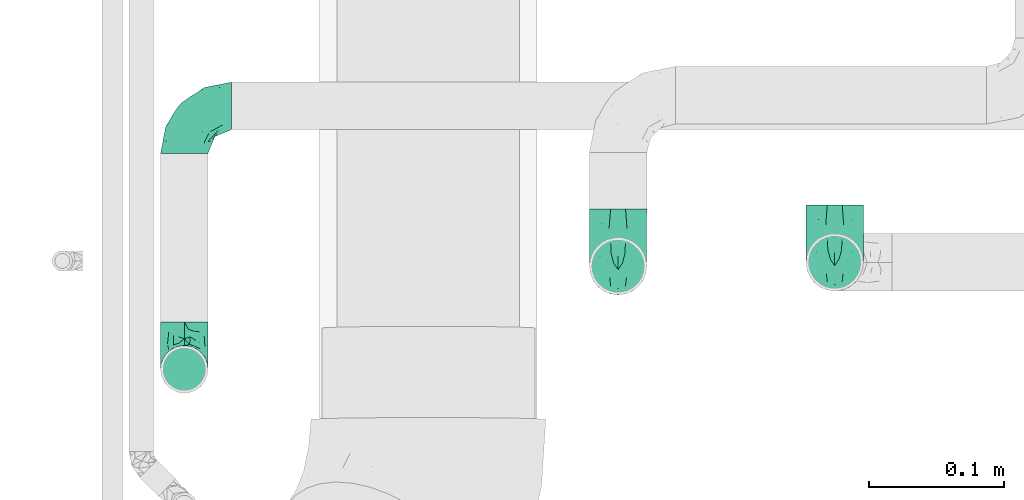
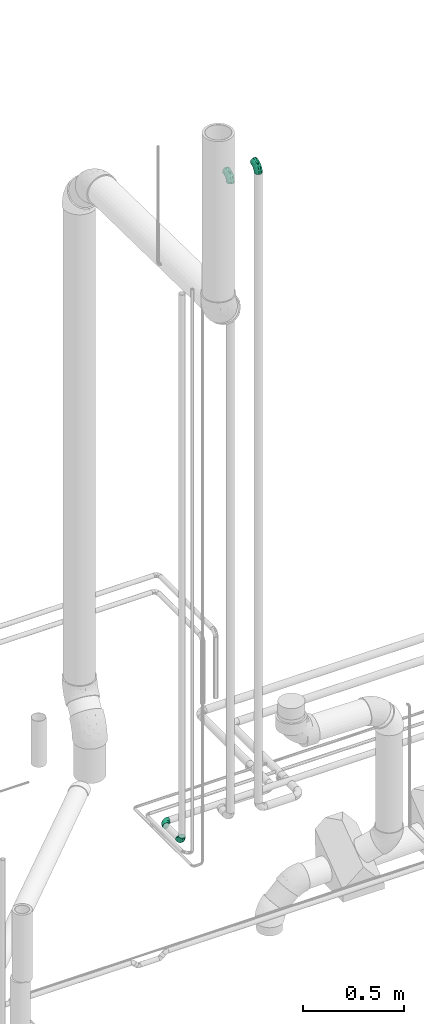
# One storey, part 89 of 156: 4 flow fittings.
"""IFC2X3 building model written with IfcOpenShell, lengths in millimetres."""

from ifc_helpers import new_model, entity, si_unit, converted_unit, derived_unit, direction, frame, origin_with_axes, place, context, subcontext, project, spatial, open_shell, surface_model, source, transform, mapped, type_object, element, save


model = new_model("IFC2X3")

# Units and contexts
model_context = context("Model", 3, precision=0.01, world=frame((0.0, 4.29681676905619e-09, 0.0)), true_north=direction((4.01073788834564e-13, 1.0)))
plan_context = context("Plan", 3, precision=0.01, world=frame((0.0, 4.29681676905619e-09, 0.0)), true_north=direction((4.01073788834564e-13, 1.0)))
body_context = subcontext(model_context, "Body", "Model", "MODEL_VIEW")
ifc_project = project(units=[converted_unit("PLANEANGLEUNIT", "DEGREE", entity("IfcPositiveLengthMeasure", 0.0174532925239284), si_unit("PLANEANGLEUNIT", "RADIAN"), dimensions=[0, 0, 0, 0, 0, 0, 0]), si_unit("AREAUNIT", "SQUARE_METRE"), si_unit("LENGTHUNIT", "METRE", prefix="MILLI"), si_unit("MASSUNIT", "GRAM", prefix="KILO"), si_unit("POWERUNIT", "WATT"), si_unit("PRESSUREUNIT", "PASCAL", prefix="KILO"), si_unit("FORCEUNIT", "NEWTON", prefix="KILO"), si_unit("ELECTRICVOLTAGEUNIT", "VOLT"), si_unit("ELECTRICCURRENTUNIT", "AMPERE"), si_unit("THERMODYNAMICTEMPERATUREUNIT", "DEGREE_CELSIUS"), si_unit("TIMEUNIT", "SECOND"), si_unit("VOLUMEUNIT", "CUBIC_METRE"), derived_unit("LINEARVELOCITYUNIT", [(si_unit("LENGTHUNIT", "METRE"), 1), (si_unit("TIMEUNIT", "SECOND"), -1)]), derived_unit("VOLUMETRICFLOWRATEUNIT", [(si_unit("VOLUMEUNIT", "CUBIC_METRE"), 1), (si_unit("TIMEUNIT", "SECOND"), -1)]), derived_unit("THERMALTRANSMITTANCEUNIT", [(si_unit("POWERUNIT", "WATT"), 1), (si_unit("THERMODYNAMICTEMPERATUREUNIT", "KELVIN"), -1), (si_unit("AREAUNIT", "SQUARE_METRE"), -1)]), derived_unit("SOUNDPRESSUREUNIT", [(si_unit("PRESSUREUNIT", "PASCAL"), 1)])], contexts=[model_context, plan_context])

# Site, building, storey
site_placement = place(None, frame((0.0, -4.29681676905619e-09, 0.0), z_axis=(0.0, 0.0, 1.0), x_axis=(1.0, 0.0, 0.0)))
site = spatial("IfcSite", under=ifc_project, at=site_placement, CompositionType="ELEMENT")
building_placement = place(site_placement, frame((0.0, 4.29681676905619e-09, 0.0), z_axis=(0.0, 0.0, 1.0), x_axis=(1.0, 0.0, 0.0)))
building = spatial("IfcBuilding", under=site, at=building_placement, Name="mc-building", CompositionType="ELEMENT")
storey_placement = place(building_placement, frame((0.0, 0.0, 205200.0), z_axis=(0.0, 0.0, 1.0), x_axis=(1.0, 0.0, 0.0)))
storey = spatial("IfcBuildingStorey", under=building, at=storey_placement, Name="Nivå D + 1,2 m", CompositionType="ELEMENT", Elevation=205200.0)

# Flow fittings
pipe_fitting_type_1 = type_object("IfcPipeFittingType", Name="magi_pipe_fe_elbow_short_001", PredefinedType="BEND")
shared_shape_1 = source(origin_with_axes(), body_context, "Body", "SurfaceModel", [
    surface_model("IfcShellBasedSurfaceModel", [(-42.4, 10.6, -18.35974), (-42.4, 5.48696, -20.47763), (-42.4, 0.0, -21.2), (-42.4, 14.99066, -14.99066), (-42.4, 20.47763, -5.48696), (-42.4, 18.35974, -10.6), (-42.4, -14.99066, 14.99066), (-42.4, -21.2, 0.0), (-42.4, -10.6, -18.35974), (-42.4, -14.99066, -14.99066), (-42.4, -5.48696, -20.47763), (-42.4, -18.35974, -10.6), (-42.4, -20.47763, -5.48696), (-42.4, 10.6, 18.35974), (-42.4, 20.47763, 5.48696), (-42.4, 18.35974, 10.6), (-42.4, 14.99066, 14.99066), (-42.4, 5.48696, 20.47763), (-42.4, 0.0, 21.2), (-42.4, -20.47763, 5.48696), (-42.4, -18.35974, 10.6), (-42.4, -10.6, 18.35974), (-42.4, -5.48696, 20.47763), (-42.4, 21.2, 0.0), (0.0, 42.4, -21.2), (-5.48696, 42.4, -20.47763), (-10.6, 42.4, -18.35974), (-14.99066, 42.4, -14.99066), (-18.35974, 42.4, -10.6), (-20.47763, 42.4, -5.48696), (21.2, 42.4, 0.0), (5.48696, 42.4, -20.47763), (14.99066, 42.4, -14.99066), (10.6, 42.4, -18.35974), (18.35974, 42.4, -10.6), (20.47763, 42.4, -5.48696), (14.99066, 42.4, 14.99066), (-20.47763, 42.4, 5.48696), (-10.6, 42.4, 18.35974), (-14.99066, 42.4, 14.99066), (-18.35974, 42.4, 10.6), (-5.48696, 42.4, 20.47763), (0.0, 42.4, 21.2), (18.35974, 42.4, 10.6), (20.47763, 42.4, 5.48696), (5.48696, 42.4, 20.47763), (10.6, 42.4, 18.35974), (-21.2, 42.4, 0.0), (-31.10239, -16.47009, 11.90111), (-27.83957, -12.231, 15.79732), (-30.23067, -18.77937, 0.0), (-18.74048, -13.50096, 10.69998), (-28.17586, -18.50359, 6.61185), (18.50359, 28.17586, 6.61185), (14.95929, 16.60735, 5.43468), (16.35874, 18.06133, 0.0), (-20.72313, 33.83635, 9.21426), (-17.70981, 33.00599, 13.92769), (-31.16033, -8.01664, 19.07348), (-32.38682, -2.80842, 20.83743), (-29.68688, 3.24967, 21.16387), (-7.74467, -9.46536, 0.0), (-16.60735, -14.95929, 5.43468), (-18.06133, -16.35874, 0.0), (-16.37932, -5.14532, 17.61254), (-21.10659, -0.19025, 20.54817), (-1.82445, -3.58377, 9.55223), (-0.35533, 0.43745, 12.66367), (-7.20655, -5.07682, 13.06146), (-33.14056, 17.6728, 13.91288), (-7.36799, 20.84806, 21.16196), (-15.70315, 15.70315, 20.68489), (-12.62356, 9.26422, 21.0908), (-36.67879, 12.83836, 17.27427), (-7.91358, 36.5686, 19.85759), (-2.90555, 31.71221, 21.14793), (-33.84689, 20.71971, 9.21285), (-33.51649, 22.58113, 4.66115), (-26.3226, 26.3226, 7.92474), (-32.67995, 8.31454, 20.02643), (-5.53379, 14.19921, 20.81623), (-10.53385, 3.88918, 19.79653), (-2.16577, 11.45378, 19.48254), (-3.78693, 3.78693, 17.3328), (12.231, 27.83957, 15.79732), (13.50096, 18.74047, 10.69998), (16.47009, 31.10239, 11.90111), (-22.53806, 14.38475, 19.60876), (-23.29615, 9.08095, 20.82061), (2.80842, 32.38682, 20.83743), (8.01664, 31.16033, 19.07348), (5.14532, 16.37932, 17.61254), (18.77937, 30.23067, 0.0), (-20.80278, 5.19491, 21.19095), (-19.62579, 22.38752, 17.42006), (-29.19336, 14.39093, 17.85259), (-22.31569, 34.20044, 4.54807), (-26.56962, 27.80621, 3.73106), (9.67657, 17.17133, 14.49993), (-24.04026, 31.8, 0.0), (-9.16861, 28.72652, 20.19004), (-12.09761, 21.9456, 20.37969), (-15.36991, 27.40112, 17.818), (-16.88976, 20.52477, 19.2896), (-12.95169, 35.54896, 17.36222), (-17.17133, -9.67657, 14.49993), (-21.98655, 28.10245, 11.99898), (-22.34699, 23.67592, 15.01692), (-27.22822, 22.77969, 11.82161), (0.19025, 21.10658, 20.54817), (4.8276, 7.36347, 13.42842), (-10.06209, -9.46364, 9.95114), (1.25876, -2.7536, 5.73797), (6.43781, 3.77591, 7.40371), (6.57528, 2.20066, 3.17705), (10.91934, 8.84313, 5.00748), (10.64415, 10.99764, 8.89767), (-31.8, 24.04026, 0.0), (-5.71381, -8.43063, 6.15529), (2.57199, -2.57199, 0.0), (9.46536, 7.74467, 0.0), (-17.17133, -9.67657, -14.49993), (-27.83957, -12.231, -15.79732), (-16.37932, -5.14532, -17.61254), (-18.74048, -13.50096, -10.69998), (-33.00599, 17.70981, -13.92769), (-35.54896, 12.95169, -17.36222), (-34.20044, 22.31569, -4.54807), (-28.17586, -18.50359, -6.61185), (-26.3226, 26.3226, -7.92474), (-33.83635, 20.72313, -9.21426), (-16.60735, -14.95929, -5.43468), (-20.52477, 16.88976, -19.2896), (-21.9456, 12.0976, -20.37969), (-27.40112, 15.36991, -17.818), (-12.83836, 36.67879, -17.27427), (-17.6728, 33.14056, -13.91288), (8.01664, 31.16033, -19.07348), (5.14532, 16.37932, -17.61254), (0.19025, 21.10658, -20.54817), (-36.5686, 7.91358, -19.85759), (-31.10239, -16.47009, -11.90111), (-31.16033, -8.01664, -19.07348), (-14.38475, 22.53806, -19.60876), (-8.31454, 32.67995, -20.02643), (-9.08095, 23.29615, -20.82061), (-32.38682, -2.80842, -20.83743), (-20.84806, 7.36799, -21.16196), (-15.70315, 15.70314, -20.68489), (-9.26422, 12.62356, -21.0908), (-31.71221, 2.90555, -21.14793), (-22.58113, 33.51649, -4.66115), (-20.71971, 33.84689, -9.21285), (-28.72652, 9.16861, -20.19004), (-27.80621, 26.56962, -3.73106), (-5.19491, 20.80278, -21.19095), (-22.38752, 19.62579, -17.42006), (-14.39093, 29.19336, -17.85259), (2.80842, 32.38682, -20.83743), (-3.24967, 29.68688, -21.16387), (16.47009, 31.10239, -11.90111), (12.231, 27.83957, -15.79732), (6.57528, 2.20067, -3.17705), (10.91934, 8.84313, -5.00749), (-14.19921, 5.53379, -20.81623), (-3.88918, 10.53385, -19.79653), (-11.45378, 2.16577, -19.48254), (1.25876, -2.7536, -5.73797), (-5.71381, -8.43063, -6.15529), (-1.82445, -3.58377, -9.55223), (13.50096, 18.74048, -10.69998), (18.50359, 28.17586, -6.61185), (14.95929, 16.60735, -5.43468), (-28.10245, 21.98655, -11.99898), (9.67657, 17.17133, -14.49993), (10.64415, 10.99764, -8.89767), (4.8276, 7.36347, -13.42842), (-23.67592, 22.34699, -15.01692), (-22.77969, 27.22822, -11.82161), (-21.10658, -0.19025, -20.54817), (-3.78693, 3.78693, -17.3328), (-7.20655, -5.07682, -13.06146), (-10.06209, -9.46364, -9.95113), (-0.35533, 0.43745, -12.66367), (6.43781, 3.77591, -7.40371)], [open_shell([[[0, 1, 2]], [[3, 0, 2]], [[4, 5, 3]], [[2, 4, 3]], [[6, 2, 7]], [[8, 9, 10]], [[11, 10, 9]], [[12, 7, 11]], [[2, 10, 11]], [[11, 7, 2]], [[6, 4, 2]], [[13, 14, 4]], [[15, 14, 16]], [[4, 6, 13]], [[16, 14, 13]], [[17, 13, 18]], [[19, 20, 7]], [[7, 20, 6]], [[21, 22, 6]], [[18, 6, 22]], [[6, 18, 13]], [[23, 4, 14]], [[24, 25, 26]], [[24, 26, 27]], [[27, 28, 29]], [[27, 29, 24]], [[24, 29, 30]], [[31, 32, 33]], [[31, 24, 32]], [[34, 30, 35]], [[32, 24, 34]], [[24, 30, 34]], [[29, 36, 30]], [[29, 37, 38]], [[39, 37, 40]], [[36, 29, 38]], [[38, 37, 39]], [[41, 42, 38]], [[30, 43, 44]], [[36, 43, 30]], [[36, 45, 46]], [[45, 36, 42]], [[38, 42, 36]], [[37, 29, 47]], [[6, 48, 49]], [[19, 7, 50]], [[51, 48, 52]], [[53, 54, 55]], [[48, 6, 20]], [[19, 52, 20]], [[40, 56, 57]], [[49, 21, 6]], [[49, 58, 21]], [[18, 59, 60]], [[61, 62, 63]], [[58, 64, 65]], [[66, 67, 68]], [[15, 16, 69]], [[70, 71, 72]], [[13, 73, 16]], [[22, 59, 18]], [[41, 74, 75]], [[18, 60, 17]], [[15, 69, 76]], [[16, 73, 69]], [[23, 14, 77]], [[14, 15, 76]], [[77, 76, 78]], [[17, 79, 13]], [[80, 81, 82]], [[68, 83, 64]], [[84, 36, 46]], [[85, 86, 84]], [[87, 79, 88]], [[21, 58, 22]], [[42, 89, 45]], [[53, 44, 43]], [[42, 41, 75]], [[84, 90, 91]], [[43, 86, 53]], [[92, 44, 53]], [[86, 43, 36]], [[90, 46, 45]], [[53, 55, 92]], [[88, 93, 72]], [[54, 53, 85]], [[87, 94, 95]], [[78, 96, 97]], [[98, 84, 91]], [[99, 96, 47]], [[79, 17, 60]], [[96, 78, 56]], [[62, 52, 63]], [[57, 39, 40]], [[100, 70, 75]], [[101, 102, 103]], [[19, 50, 52]], [[104, 38, 39]], [[74, 41, 38]], [[57, 102, 104]], [[105, 64, 49]], [[90, 84, 46]], [[40, 37, 56]], [[56, 106, 57]], [[102, 57, 107]], [[95, 107, 69]], [[76, 108, 78]], [[100, 101, 70]], [[89, 75, 109]], [[64, 58, 49]], [[63, 52, 50]], [[59, 58, 65]], [[105, 49, 51]], [[64, 83, 81]], [[89, 90, 45]], [[30, 44, 92]], [[109, 82, 91]], [[109, 91, 90]], [[91, 83, 110]], [[111, 68, 105]], [[66, 68, 111]], [[62, 51, 52]], [[66, 112, 113]], [[114, 115, 113]], [[98, 85, 84]], [[52, 48, 20]], [[49, 48, 51]], [[84, 86, 36]], [[53, 86, 85]], [[88, 79, 60]], [[73, 79, 95]], [[96, 56, 37]], [[78, 108, 106]], [[87, 103, 94]], [[100, 74, 104]], [[108, 69, 107]], [[78, 97, 77]], [[88, 72, 71]], [[109, 75, 70]], [[81, 72, 65]], [[70, 72, 80]], [[75, 89, 42]], [[90, 89, 109]], [[58, 59, 22]], [[60, 59, 65]], [[67, 83, 68]], [[110, 113, 116]], [[88, 60, 93]], [[87, 88, 71]], [[103, 87, 71]], [[79, 87, 95]], [[101, 103, 71]], [[94, 103, 102]], [[47, 96, 37]], [[96, 99, 97]], [[99, 117, 97]], [[97, 117, 77]], [[23, 77, 117]], [[14, 76, 77]], [[60, 65, 93]], [[65, 72, 93]], [[70, 101, 71]], [[102, 101, 100]], [[69, 108, 76]], [[106, 108, 107]], [[57, 106, 107]], [[78, 106, 56]], [[57, 104, 39]], [[100, 104, 102]], [[102, 107, 94]], [[95, 94, 107]], [[64, 81, 65]], [[82, 81, 83]], [[91, 82, 83]], [[80, 82, 109]], [[70, 80, 109]], [[81, 80, 72]], [[79, 73, 13]], [[69, 73, 95]], [[104, 74, 38]], [[75, 74, 100]], [[62, 61, 118]], [[111, 62, 118]], [[113, 115, 116]], [[119, 118, 61]], [[111, 105, 51]], [[113, 112, 114]], [[120, 55, 54]], [[68, 64, 105]], [[91, 110, 98]], [[116, 98, 110]], [[62, 111, 51]], [[66, 111, 118]], [[112, 66, 118]], [[67, 113, 110]], [[118, 119, 112]], [[114, 112, 119]], [[119, 120, 114]], [[115, 120, 54]], [[120, 115, 114]], [[116, 54, 85]], [[54, 116, 115]], [[116, 85, 98]], [[113, 67, 66]], [[83, 67, 110]], [[121, 122, 123]], [[122, 121, 124]], [[5, 125, 3]], [[3, 126, 0]], [[117, 127, 23]], [[50, 12, 128]], [[127, 129, 130]], [[128, 131, 63]], [[132, 133, 134]], [[27, 135, 136]], [[137, 138, 139]], [[0, 140, 1]], [[128, 11, 141]], [[142, 8, 10]], [[128, 63, 50]], [[5, 4, 130]], [[11, 9, 141]], [[143, 144, 145]], [[146, 10, 2]], [[147, 148, 149]], [[11, 128, 12]], [[124, 141, 122]], [[150, 2, 1]], [[151, 152, 129]], [[125, 134, 126]], [[153, 147, 150]], [[127, 154, 129]], [[145, 155, 149]], [[47, 29, 151]], [[143, 156, 157]], [[152, 29, 28]], [[24, 158, 159]], [[122, 9, 8]], [[27, 26, 135]], [[144, 26, 25]], [[32, 160, 161]], [[24, 31, 158]], [[120, 162, 163]], [[130, 125, 5]], [[27, 136, 28]], [[1, 140, 150]], [[33, 161, 137]], [[142, 122, 8]], [[24, 159, 25]], [[164, 165, 166]], [[167, 168, 169]], [[34, 160, 32]], [[161, 33, 32]], [[170, 160, 171]], [[131, 128, 124]], [[30, 92, 35]], [[35, 92, 171]], [[172, 171, 55]], [[35, 171, 34]], [[144, 25, 159]], [[130, 173, 125]], [[174, 175, 176]], [[136, 152, 28]], [[33, 137, 31]], [[122, 142, 123]], [[134, 125, 177]], [[157, 177, 136]], [[152, 178, 129]], [[153, 133, 147]], [[146, 150, 179]], [[146, 142, 10]], [[7, 12, 50]], [[179, 166, 123]], [[179, 123, 142]], [[123, 180, 181]], [[138, 137, 161]], [[55, 171, 92]], [[158, 137, 139]], [[174, 161, 170]], [[138, 180, 165]], [[180, 138, 176]], [[124, 121, 182]], [[176, 183, 180]], [[61, 131, 168]], [[169, 168, 182]], [[172, 170, 171]], [[122, 141, 9]], [[128, 141, 124]], [[171, 160, 34]], [[161, 160, 170]], [[145, 144, 159]], [[135, 144, 157]], [[127, 130, 4]], [[129, 178, 173]], [[143, 132, 156]], [[153, 140, 126]], [[178, 136, 177]], [[129, 154, 151]], [[145, 149, 148]], [[179, 150, 147]], [[165, 149, 139]], [[147, 149, 164]], [[150, 146, 2]], [[142, 146, 179]], [[137, 158, 31]], [[159, 158, 139]], [[174, 138, 161]], [[184, 169, 183]], [[145, 159, 155]], [[143, 145, 148]], [[132, 143, 148]], [[144, 143, 157]], [[133, 132, 148]], [[156, 132, 134]], [[23, 127, 4]], [[127, 117, 154]], [[117, 99, 154]], [[154, 99, 151]], [[47, 151, 99]], [[29, 152, 151]], [[159, 139, 155]], [[139, 149, 155]], [[147, 133, 148]], [[134, 133, 153]], [[136, 178, 152]], [[173, 178, 177]], [[125, 173, 177]], [[129, 173, 130]], [[125, 126, 3]], [[153, 126, 134]], [[134, 177, 156]], [[157, 156, 177]], [[138, 165, 139]], [[166, 165, 180]], [[123, 166, 180]], [[164, 166, 179]], [[147, 164, 179]], [[165, 164, 149]], [[144, 135, 26]], [[136, 135, 157]], [[126, 140, 0]], [[150, 140, 153]], [[182, 131, 124]], [[168, 119, 61]], [[119, 167, 162]], [[63, 131, 61]], [[172, 163, 175]], [[172, 55, 120]], [[123, 181, 121]], [[182, 121, 181]], [[175, 174, 170]], [[176, 138, 174]], [[169, 182, 181]], [[131, 182, 168]], [[183, 169, 181]], [[167, 169, 184]], [[162, 167, 184]], [[119, 168, 167]], [[163, 162, 184]], [[120, 119, 162]], [[175, 163, 184]], [[120, 163, 172]], [[176, 175, 184]], [[172, 175, 170]], [[180, 183, 181]], [[184, 183, 176]]])]),
])
for number, where, z_axis, x_axis, name in (
    (1, (324448.8625, 463166.1423, 8186.0), (-1.0, 0.0, 0.0), (0.0, 0.0, 1.0), "magi_pipe_fe_elbow_short_001"),
    (2, (324608.8625, 463169.03228, 8186.0), (-1.0, 0.0, 0.0), (0.0, 0.0, 1.0), "magi_pipe_fe_elbow_short_001"),
):
    element("IfcFlowFitting", number, at=place(storey_placement, frame(where, z_axis=z_axis, x_axis=x_axis)), inside=storey, type_object=pipe_fitting_type_1, Name=name, context=body_context, shape_type="MappedRepresentation", body=[
        mapped(shared_shape_1, transform((0.0, 0.0, 0.0), scale=1.0)),
    ])
pipe_fitting_type_2 = type_object("IfcPipeFittingType", Name="magi_pipe_elbow_short_001", PredefinedType="BEND")
shared_shape_2 = source(origin_with_axes(), body_context, "Body", "SurfaceModel", [
    surface_model("IfcShellBasedSurfaceModel", [(-35.0, 8.75, -15.15544), (-35.0, 4.52933, -16.9037), (-35.0, 0.0, -17.5), (-35.0, 12.37437, -12.37437), (-35.0, 15.15544, -8.75), (-35.0, -8.75, -15.15544), (-35.0, -8.75, 15.15544), (-35.0, -12.37437, -12.37437), (-35.0, -4.52933, -16.9037), (-35.0, -16.9037, -4.52933), (-35.0, -17.5, 0.0), (-35.0, -15.15544, -8.75), (-35.0, -16.9037, 4.52933), (-35.0, 17.5, 0.0), (-35.0, 16.9037, -4.52933), (-35.0, 12.37437, 12.37437), (-35.0, 16.9037, 4.52933), (-35.0, 15.15544, 8.75), (-35.0, 4.52933, 16.9037), (-35.0, 8.75, 15.15544), (-35.0, 0.0, 17.5), (-35.0, -15.15544, 8.75), (-35.0, -12.37437, 12.37437), (-35.0, -4.52933, 16.9037), (0.0, 35.0, -17.5), (-4.52933, 35.0, -16.9037), (-8.75, 35.0, -15.15544), (-16.9037, 35.0, -4.52933), (-15.15544, 35.0, -8.75), (-12.37437, 35.0, -12.37437), (12.37437, 35.0, -12.37437), (16.9037, 35.0, 4.52933), (8.75, 35.0, -15.15544), (4.52933, 35.0, -16.9037), (15.15544, 35.0, -8.75), (17.5, 35.0, 0.0), (16.9037, 35.0, -4.52933), (-16.9037, 35.0, 4.52933), (-12.37437, 35.0, 12.37437), (-15.15544, 35.0, 8.75), (-8.75, 35.0, 15.15544), (-4.52933, 35.0, 16.9037), (12.37437, 35.0, 12.37437), (15.15544, 35.0, 8.75), (8.75, 35.0, 15.15544), (0.0, 35.0, 17.5), (4.52933, 35.0, 16.9037), (-17.5, 35.0, 0.0), (-25.67415, -13.59559, 9.82403), (-22.98078, -10.09634, 13.04024), (-24.95456, -15.50184, 0.0), (-15.46973, -11.14466, 8.83253), (-23.25837, -15.27419, 5.4579), (15.27419, 23.25837, 5.4579), (12.34847, 13.7089, 4.48617), (13.50368, 14.90912, 0.0), (7.98773, 14.17445, 11.96929), (10.09634, 22.98078, 13.04024), (4.24731, 13.52067, 14.53865), (-25.72197, -6.61751, 15.74462), (-26.7344, -2.31827, 17.20071), (-24.50568, 2.68251, 17.47017), (-27.44516, 14.56448, 11.47495), (-25.07215, 18.29076, 8.00088), (-30.6355, 16.43299, 7.25145), (-6.39301, -7.81339, 0.0), (-13.7089, -12.34847, 4.48617), (-14.90912, -13.50368, 0.0), (-18.44681, 19.54381, 12.39604), (-6.53243, 30.18634, 16.39188), (-2.39845, 26.17753, 17.45702), (-30.27731, 10.5977, 14.25942), (-1.50603, -2.9583, 7.8851), (-0.29331, 0.3611, 10.4535), (-5.9488, -4.19077, 10.78186), (-4.56799, 11.72104, 17.18321), (-8.69539, 3.21041, 16.34147), (-1.78778, 9.45477, 16.08229), (-18.0168, 25.63227, 7.92136), (-27.12223, 20.76308, 0.0), (-29.14442, 17.91065, 4.40976), (-26.97638, 6.86342, 16.53125), (-6.08206, 17.20948, 17.4686), (-12.9625, 12.9625, 17.07479), (-10.42039, 7.64736, 17.40986), (-3.126, 3.126, 14.30773), (-13.52067, -4.24732, 14.53865), (-17.42289, -0.15705, 16.96193), (11.14466, 15.46973, 8.83253), (13.59559, 25.67415, 9.82403), (6.61751, 25.72197, 15.74462), (2.31827, 26.7344, 17.20071), (-14.17445, -7.98773, 11.96929), (15.50184, 24.95456, 0.0), (-7.56843, 23.71293, 16.6663), (-11.05874, 27.1034, 14.50532), (-13.23678, 18.91785, 15.59535), (-14.3786, 23.24943, 13.39158), (-18.69025, 15.70341, 14.54296), (-23.93728, 20.79474, 4.17293), (-22.62563, 22.62563, 0.0), (-19.21704, 26.38748, 4.0702), (-14.44673, 27.90403, 11.42459), (-19.23031, 7.49607, 17.18683), (-17.1721, 4.28825, 17.49253), (-18.60453, 11.87421, 16.18647), (-10.19404, 18.16587, 16.76415), (0.15705, 17.42289, 16.96193), (-24.0983, 11.8793, 14.7368), (3.98505, 6.07834, 11.08478), (-8.30597, -7.81197, 8.21438), (1.03907, -2.27302, 4.73653), (5.31423, 3.11691, 6.11155), (5.42771, 1.81659, 2.62257), (9.0136, 7.29975, 4.13354), (-20.76308, 27.12223, 0.0), (8.78644, 9.07824, 7.34478), (-4.71659, -6.95924, 5.08102), (2.12311, -2.12311, 0.0), (7.81339, 6.39301, 0.0), (-27.70384, 2.21276, -17.44304), (-15.139, 25.6163, -11.67774), (-29.4629, -13.93098, -10.16755), (-26.92794, 6.87113, -16.53331), (-23.88622, 20.75741, -4.41333), (-14.29664, -4.41648, -14.68212), (-15.19601, -0.21829, -16.64455), (-7.03127, -0.29284, -14.33943), (-25.40695, 11.47437, -14.63597), (-27.66913, 14.50571, -11.45035), (10.45516, 25.31793, -13.21276), (6.03943, 22.16202, -15.56409), (6.89903, 29.55572, -15.927), (-21.10543, 16.03689, -13.19848), (12.97763, 21.9883, -9.47862), (12.99032, 16.23155, -5.74578), (10.09843, 13.35052, -8.97101), (-16.20755, 20.33949, -13.47528), (-12.46256, 21.39865, -15.19771), (-16.17359, 16.17359, -15.36562), (-26.47317, -15.80391, 0.0), (-25.52983, -15.66647, -5.70515), (13.93098, 29.4629, -10.16755), (15.66647, 25.52983, -5.70515), (-7.61553, -8.60518, -5.85642), (-16.23155, -12.99032, -5.74578), (-25.31793, -10.45516, -13.21276), (0.17109, 0.42769, -10.06227), (-5.90918, -5.51991, -9.20861), (-5.32113, -2.45619, -11.9452), (-21.9883, -12.97763, -9.47862), (0.73672, 8.22048, -14.5942), (0.21829, 15.19601, -16.64455), (3.61692, 14.93995, -15.28797), (-25.7831, -2.20653, -17.18003), (-29.55572, -6.89903, -15.927), (-19.09867, -7.99059, -13.74068), (2.20653, 25.7831, -17.18003), (-29.66035, 18.06344, -2.9959), (1.76053, -1.33292, -5.27593), (-17.15897, 27.77164, -7.62747), (-18.31862, 28.40001, -3.89769), (-13.35052, -10.09843, -8.97101), (-6.17792, 6.17792, -16.5247), (-21.26622, 20.80683, -8.58416), (-2.21276, 27.70384, -17.44304), (-7.14365, 25.46075, -16.59474), (-10.98399, 27.47352, -14.47678), (-22.16202, -6.03943, -15.56409), (3.03601, 6.10561, -11.96956), (7.13869, 13.06641, -12.24206), (5.77868, 6.1646, -9.10678), (-4.13696, 19.27897, -17.49622), (8.60518, 7.61553, -5.85642), (-9.46274, 10.21159, -17.49007), (-10.35485, 16.58999, -16.97913), (-17.27815, 10.12754, -16.92218), (-27.97841, 17.20134, -7.38292), (15.80391, 26.47317, 0.0), (-19.27898, 4.13695, -17.49622), (-20.06282, 28.81281, 0.0), (-13.06641, -7.13869, -12.24206), (-19.51618, 19.81971, -11.35476)], [open_shell([[[0, 1, 2]], [[3, 0, 2]], [[4, 3, 5]], [[2, 5, 3]], [[6, 4, 5]], [[7, 6, 5]], [[2, 8, 5]], [[9, 10, 11]], [[11, 10, 12]], [[11, 12, 7]], [[13, 14, 4]], [[4, 15, 16]], [[17, 16, 15]], [[18, 19, 15]], [[4, 6, 15]], [[15, 20, 18]], [[21, 22, 12]], [[6, 12, 22]], [[23, 20, 6]], [[6, 7, 12]], [[6, 20, 15]], [[13, 4, 16]], [[24, 25, 26]], [[24, 26, 27]], [[28, 27, 26]], [[28, 26, 29]], [[30, 24, 31]], [[24, 32, 33]], [[24, 30, 32]], [[34, 35, 36]], [[31, 35, 34]], [[34, 30, 31]], [[31, 24, 27]], [[31, 27, 37]], [[38, 37, 39]], [[38, 40, 41]], [[37, 38, 31]], [[41, 31, 38]], [[31, 42, 43]], [[42, 31, 44]], [[44, 45, 46]], [[45, 44, 31]], [[31, 41, 45]], [[37, 27, 47]], [[22, 48, 49]], [[12, 10, 50]], [[51, 48, 52]], [[53, 54, 55]], [[48, 22, 21]], [[12, 52, 21]], [[56, 57, 58]], [[49, 6, 22]], [[49, 59, 6]], [[20, 60, 61]], [[62, 63, 64]], [[65, 66, 67]], [[57, 42, 44]], [[62, 68, 63]], [[41, 69, 70]], [[19, 71, 15]], [[23, 60, 20]], [[72, 73, 74]], [[75, 76, 77]], [[15, 62, 17]], [[39, 37, 78]], [[79, 13, 80]], [[64, 16, 17]], [[20, 61, 18]], [[18, 81, 19]], [[82, 83, 84]], [[74, 85, 86]], [[59, 86, 87]], [[88, 89, 57]], [[90, 44, 46]], [[43, 53, 31]], [[46, 45, 91]], [[54, 53, 88]], [[43, 89, 53]], [[92, 86, 49]], [[89, 43, 42]], [[6, 59, 23]], [[53, 55, 93]], [[93, 31, 53]], [[66, 52, 67]], [[94, 82, 70]], [[95, 96, 94]], [[97, 98, 96]], [[79, 99, 100]], [[40, 38, 95]], [[101, 100, 99]], [[68, 78, 63]], [[41, 40, 69]], [[13, 16, 80]], [[95, 94, 69]], [[78, 101, 99]], [[38, 102, 95]], [[70, 45, 41]], [[97, 95, 102]], [[12, 50, 52]], [[90, 57, 44]], [[57, 90, 58]], [[81, 18, 61]], [[103, 104, 84]], [[105, 81, 103]], [[38, 39, 102]], [[106, 96, 83]], [[94, 106, 82]], [[91, 70, 107]], [[71, 62, 15]], [[62, 108, 98]], [[86, 59, 49]], [[67, 52, 50]], [[60, 59, 87]], [[92, 49, 51]], [[86, 85, 76]], [[91, 90, 46]], [[35, 31, 93]], [[107, 77, 58]], [[107, 58, 90]], [[58, 85, 109]], [[110, 74, 92]], [[72, 74, 110]], [[66, 51, 52]], [[72, 111, 112]], [[113, 114, 112]], [[56, 88, 57]], [[52, 48, 21]], [[49, 48, 51]], [[57, 89, 42]], [[53, 89, 88]], [[103, 81, 61]], [[71, 81, 108]], [[16, 64, 80]], [[63, 78, 99]], [[47, 115, 101]], [[101, 115, 100]], [[39, 78, 102]], [[68, 102, 78]], [[97, 96, 95]], [[105, 98, 108]], [[103, 84, 83]], [[107, 70, 82]], [[76, 84, 87]], [[82, 84, 75]], [[70, 91, 45]], [[90, 91, 107]], [[59, 60, 23]], [[61, 60, 87]], [[73, 85, 74]], [[109, 112, 116]], [[103, 61, 104]], [[105, 103, 83]], [[96, 105, 83]], [[81, 105, 108]], [[96, 98, 105]], [[62, 98, 68]], [[61, 87, 104]], [[87, 84, 104]], [[86, 76, 87]], [[77, 76, 85]], [[58, 77, 85]], [[75, 77, 107]], [[82, 75, 107]], [[76, 75, 84]], [[81, 71, 19]], [[62, 71, 108]], [[95, 69, 40]], [[70, 69, 94]], [[62, 64, 17]], [[80, 63, 99]], [[63, 80, 64]], [[80, 99, 79]], [[66, 65, 117]], [[110, 66, 117]], [[112, 114, 116]], [[118, 117, 65]], [[110, 92, 51]], [[112, 111, 113]], [[119, 55, 54]], [[74, 86, 92]], [[58, 109, 56]], [[116, 56, 109]], [[66, 110, 51]], [[72, 110, 117]], [[111, 72, 117]], [[73, 112, 109]], [[117, 118, 111]], [[113, 111, 118]], [[118, 119, 113]], [[114, 119, 54]], [[119, 114, 113]], [[116, 54, 88]], [[54, 116, 114]], [[116, 88, 56]], [[112, 73, 72]], [[85, 73, 109]], [[78, 37, 101]], [[47, 101, 37]], [[102, 68, 97]], [[97, 68, 98]], [[82, 106, 83]], [[94, 96, 106]], [[1, 120, 2]], [[28, 29, 121]], [[7, 122, 11]], [[0, 123, 1]], [[100, 124, 79]], [[125, 126, 127]], [[128, 3, 129]], [[130, 131, 132]], [[128, 129, 133]], [[134, 135, 136]], [[137, 138, 139]], [[128, 0, 3]], [[67, 140, 141]], [[134, 142, 143]], [[141, 9, 11]], [[144, 65, 145]], [[146, 7, 5]], [[147, 148, 149]], [[145, 141, 150]], [[151, 152, 153]], [[154, 8, 2]], [[5, 155, 146]], [[150, 146, 156]], [[155, 5, 8]], [[143, 135, 134]], [[33, 157, 24]], [[13, 79, 158]], [[148, 159, 144]], [[160, 161, 27]], [[145, 162, 144]], [[163, 152, 151]], [[27, 28, 160]], [[121, 164, 160]], [[32, 30, 130]], [[24, 165, 25]], [[25, 165, 166]], [[142, 30, 34]], [[29, 26, 167]], [[124, 161, 164]], [[157, 33, 132]], [[155, 154, 168]], [[123, 0, 128]], [[169, 170, 171]], [[172, 157, 152]], [[25, 166, 26]], [[132, 33, 32]], [[142, 130, 30]], [[168, 154, 126]], [[136, 135, 173]], [[133, 137, 139]], [[3, 4, 129]], [[170, 131, 130]], [[34, 36, 143]], [[172, 174, 175]], [[176, 123, 128]], [[158, 177, 14]], [[135, 55, 119]], [[167, 26, 166]], [[175, 166, 172]], [[137, 167, 138]], [[122, 141, 11]], [[140, 10, 9]], [[36, 35, 178]], [[170, 130, 134]], [[152, 157, 131]], [[165, 157, 172]], [[153, 170, 151]], [[152, 163, 174]], [[168, 125, 156]], [[122, 146, 150]], [[120, 154, 2]], [[179, 174, 126]], [[179, 126, 154]], [[126, 163, 127]], [[162, 145, 150]], [[140, 9, 141]], [[36, 178, 143]], [[55, 143, 178]], [[177, 129, 4]], [[128, 133, 139]], [[176, 128, 139]], [[120, 123, 179]], [[121, 160, 28]], [[161, 100, 180]], [[166, 175, 138]], [[121, 29, 167]], [[161, 47, 27]], [[79, 124, 158]], [[124, 164, 177]], [[161, 124, 100]], [[136, 171, 170]], [[127, 163, 151]], [[147, 171, 159]], [[148, 144, 162]], [[127, 151, 169]], [[127, 181, 125]], [[129, 177, 164]], [[4, 14, 177]], [[159, 65, 144]], [[67, 141, 145]], [[143, 55, 135]], [[135, 119, 173]], [[123, 120, 1]], [[154, 120, 179]], [[157, 165, 24]], [[166, 165, 172]], [[172, 152, 174]], [[176, 139, 175]], [[126, 174, 163]], [[176, 174, 179]], [[174, 176, 175]], [[123, 176, 179]], [[150, 181, 162]], [[127, 149, 181]], [[181, 148, 162]], [[159, 148, 147]], [[171, 136, 173]], [[170, 134, 136]], [[159, 171, 173]], [[171, 147, 169]], [[169, 147, 149]], [[151, 170, 169]], [[164, 182, 129]], [[182, 121, 137]], [[181, 149, 148]], [[169, 149, 127]], [[182, 137, 133]], [[167, 137, 121]], [[166, 138, 167]], [[175, 139, 138]], [[129, 182, 133]], [[121, 182, 164]], [[161, 160, 164]], [[47, 161, 180]], [[177, 158, 124]], [[13, 158, 14]], [[130, 132, 32]], [[157, 132, 131]], [[143, 142, 34]], [[130, 142, 134]], [[154, 155, 8]], [[146, 155, 168]], [[146, 122, 7]], [[141, 122, 150]], [[152, 131, 153]], [[159, 119, 118]], [[67, 145, 65]], [[170, 153, 131]], [[119, 159, 173]], [[159, 118, 65]], [[156, 125, 181]], [[126, 125, 168]], [[150, 156, 181]], [[168, 156, 146]]])]),
])
for number, where, z_axis, x_axis, name in (
    (3, (324128.525, 463284.5375, 4318.0), (0.0, 0.0, 1.0), (-1.0, 0.0, 0.0), "magi_pipe_elbow_short_001"),
    (4, (324128.525, 463090.0, 4318.0), (-1.0, 0.0, 0.0), (0.0, -1.0, 0.0), "magi_pipe_elbow_short_001"),
):
    element("IfcFlowFitting", number, at=place(storey_placement, frame(where, z_axis=z_axis, x_axis=x_axis)), inside=storey, type_object=pipe_fitting_type_2, Name=name, context=body_context, shape_type="MappedRepresentation", body=[
        mapped(shared_shape_2, transform((0.0, 0.0, 0.0), scale=1.0)),
    ])

save(model, "model.ifc")
